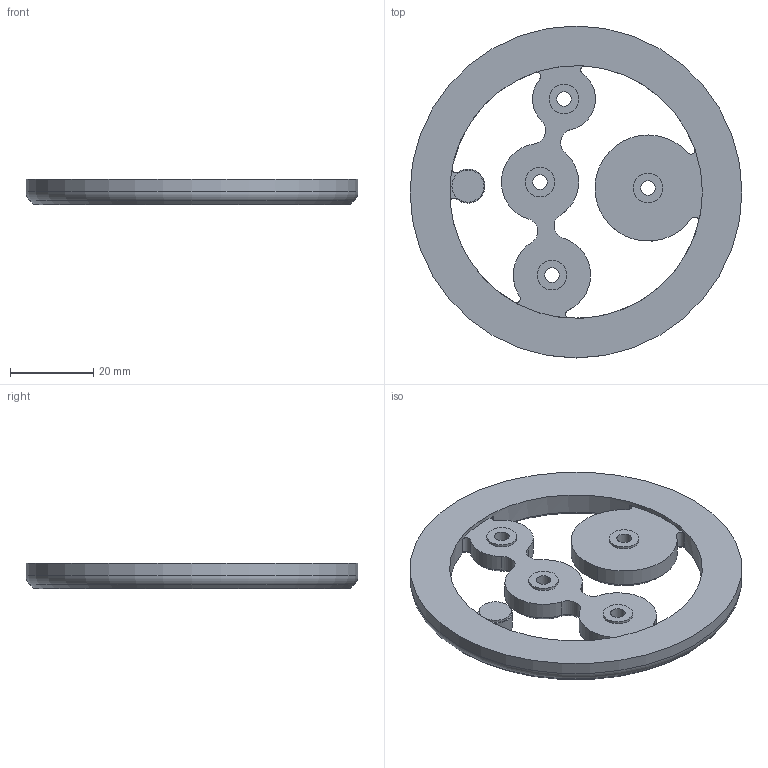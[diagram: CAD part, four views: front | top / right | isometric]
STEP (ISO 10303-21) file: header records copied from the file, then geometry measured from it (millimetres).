
FILE_DESCRIPTION(/* description */ ('STEP AP242','CAx-IF Rec.Pracs.---Representation and Presentation of Product Manufacturing Information (PMI)---4.0---2014-10-13','CAx-IF Rec.Pracs.---3D Tessellated Geometry---0.4---2014-09-14','2;1'),/* implementation_level */ '2;1');
FILE_NAME(/* name */ '64793f347897e338d11cebcc',/* time_stamp */ '2023-06-02T01:00:36Z',/* author */ (''),/* organization */ (''),/* preprocessor_version */ 'ST-DEVELOPER v19.4',/* originating_system */ ' ',/* authorisation */ ' ');
FILE_SCHEMA (('AP242_MANAGED_MODEL_BASED_3D_ENGINEERING_MIM_LF { 1 0 10303 442 1 1 4 }'));
Length unit declared in the file: metre
Products named in the file (1): Spin Ring V1.71
Bounding box: 79.6 x 79.6 x 6 mm (x, y, z)
Volume: 18423.7 mm3; surface area: 10192.3 mm2
Topology: 1 solids, 1 shells, 86 faces, 206 edges, 127 vertices
Faces by surface type: cylinder 37, cone 31, plane 13, torus 5
Full cylindrical faces by diameter (mm): 2.85 x1, 3.5 x4, 7.1 x8, 7.7 x1, 60.625 x1, 79.6 x1
Entity records: 2327 total; most frequent: DIRECTION 455, CARTESIAN_POINT 371, ORIENTED_EDGE 336, AXIS2_PLACEMENT_3D 200, EDGE_CURVE 168, EDGE_LOOP 130, FACE_BOUND 130, VERTEX_POINT 116
